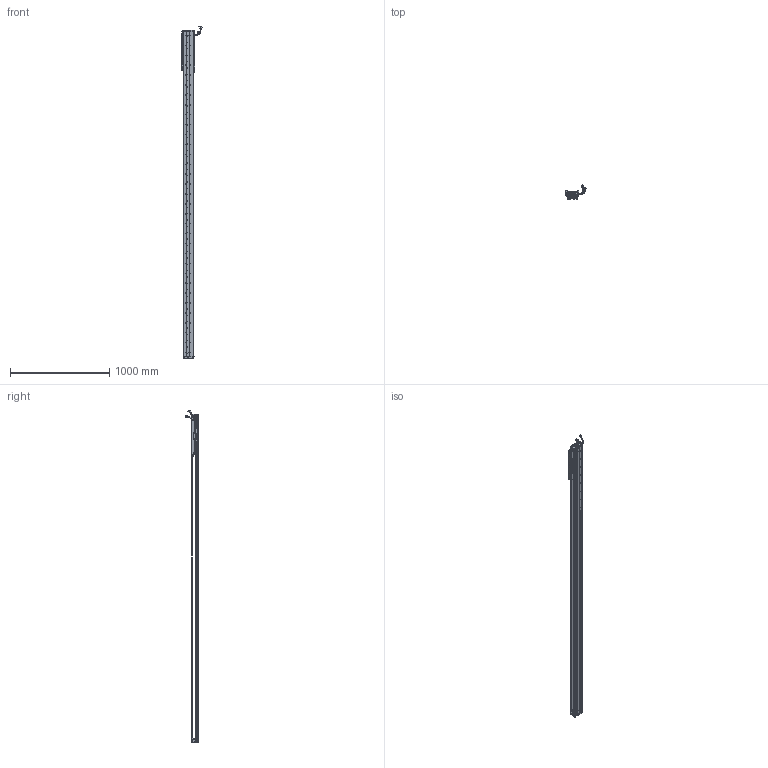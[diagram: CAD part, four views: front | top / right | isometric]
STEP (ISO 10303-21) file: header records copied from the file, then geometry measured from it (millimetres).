
FILE_DESCRIPTION (( 'STEP AP203' ), '1' );
FILE_NAME ('Z5-RY100D-1-L500-B-K.SLDASM_2850.step', '2021-05-17T03:35:40', ( '盈信电脑' ), ( '东莞市道滘镇水果街19号' ), 'SwSTEP 2.0', 'SolidWorks 2016', '' );
FILE_SCHEMA (( 'CONFIG_CONTROL_DESIGN' ));
Length unit declared in the file: millimetre
Products named in the file (36): Z-100詩湍傷裔啣; Z5-RY100铝滑块（21款）; SCALE; SCREW-M1.7-1; 覜茼ん672; SCREW-M1.6-2; COVER; Z-RY100D詩湍奻揤裔; 080黍杅芛假蚾釱21遴; SEAL-Part-1; SCREW-M1.6-3; Z5-RY100-L500詩湍90mm遵_2850; HARNESS-Part-1; SCALE-Part-2; SCREW-M1.6-1; LABEL; Z-RY100D詩湍狟揤裔; SEAL; SHIELDPLATE; COVER-Part-1; Z-RY100D覜茼んえ; HOLDER0; 榋妏寠巭燃_暯_M2_2; LABEL-Part-1; PBU_SHEET; Z5-RY100D-1-L500-B-K.SLDASM_2850; 140雄赽晤鎢ん堤盄; SCALE-Part-1; SCREW-M1.7; 140蚥薯蝶輸; HARNESS; SCREW-M1.6; 100-Z-臏賑輸盄裔(21遴); Z5-RY100D-500-倰第菁釱_2850; HARNESS-Part-2; PSLH080_PSLF2
Assembly tree (43 placements, depth 4):
  Z5-RY100D-1-L500-B-K.SLDASM_2850
    Z5-RY100D-500-倰第菁釱_2850
    Z5-RY100铝滑块（21款）
    PSLH080_PSLF2
      SCALE
        SCALE-Part-1
        SCALE-Part-2
      HARNESS
        HARNESS-Part-1
        HARNESS-Part-2
      LABEL
        LABEL-Part-1
      COVER
        COVER-Part-1
      SEAL
        SEAL-Part-1
      榋妏寠巭燃_暯_M2_2
      SHIELDPLATE
      SCREW-M1.7
      SCREW-M1.7-1
      PBU_SHEET
      SCREW-M1.6
      SCREW-M1.6-1
      SCREW-M1.6-2
      SCREW-M1.6-3
      HOLDER0
    080黍杅芛假蚾釱21遴
    Z-100詩湍傷裔啣  x2
    140蚥薯蝶輸  x2
    覜茼ん672  x3
    Z-RY100D覜茼んえ  x3
    100-Z-臏賑輸盄裔(21遴)
    140雄赽晤鎢ん堤盄
    Z5-RY100-L500詩湍90mm遵_2850
    Z-RY100D詩湍狟揤裔  x2
    Z-RY100D詩湍奻揤裔  x2
Bounding box: 205.79 x 136.11 x 3350.43 mm (x, y, z)
Volume: 6189944.4 mm3; surface area: 2416162.5 mm2
Topology: 38 solids, 38 shells, 3199 faces, 8839 edges, 5660 vertices
Faces by surface type: cylinder 1638, plane 1213, cone 226, torus 69, bspline 53
Entity records: 94565 total; most frequent: CARTESIAN_POINT 19747, DIRECTION 15349, ORIENTED_EDGE 14558, EDGE_CURVE 7279, AXIS2_PLACEMENT_3D 5814, VERTEX_POINT 4728, VECTOR 3721, LINE 3721
